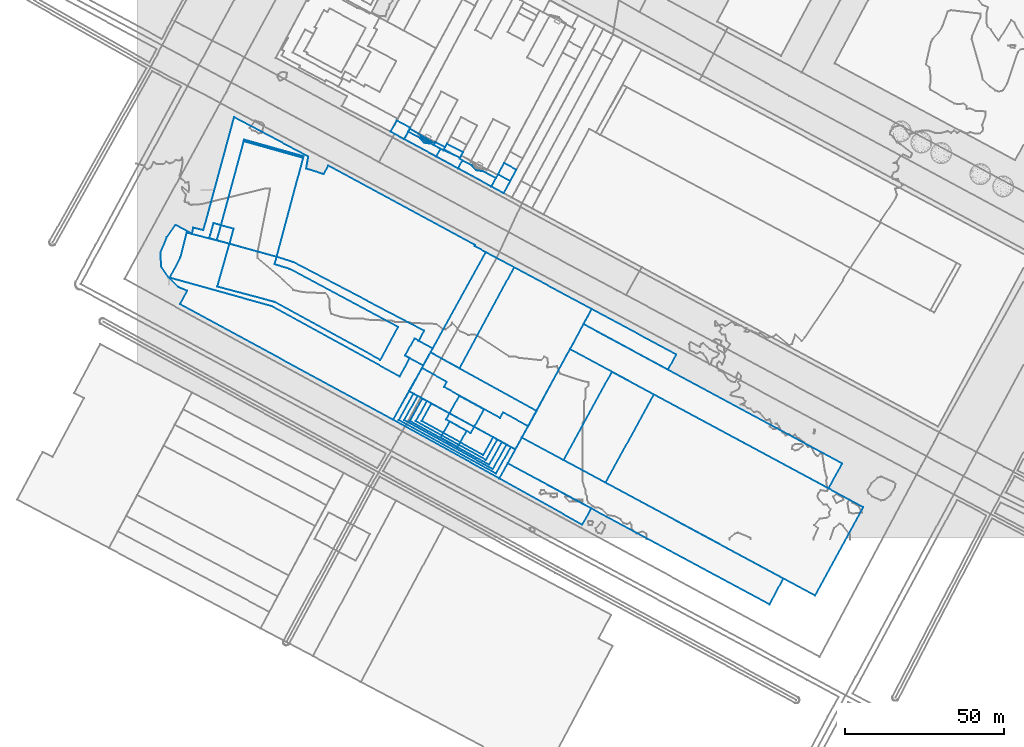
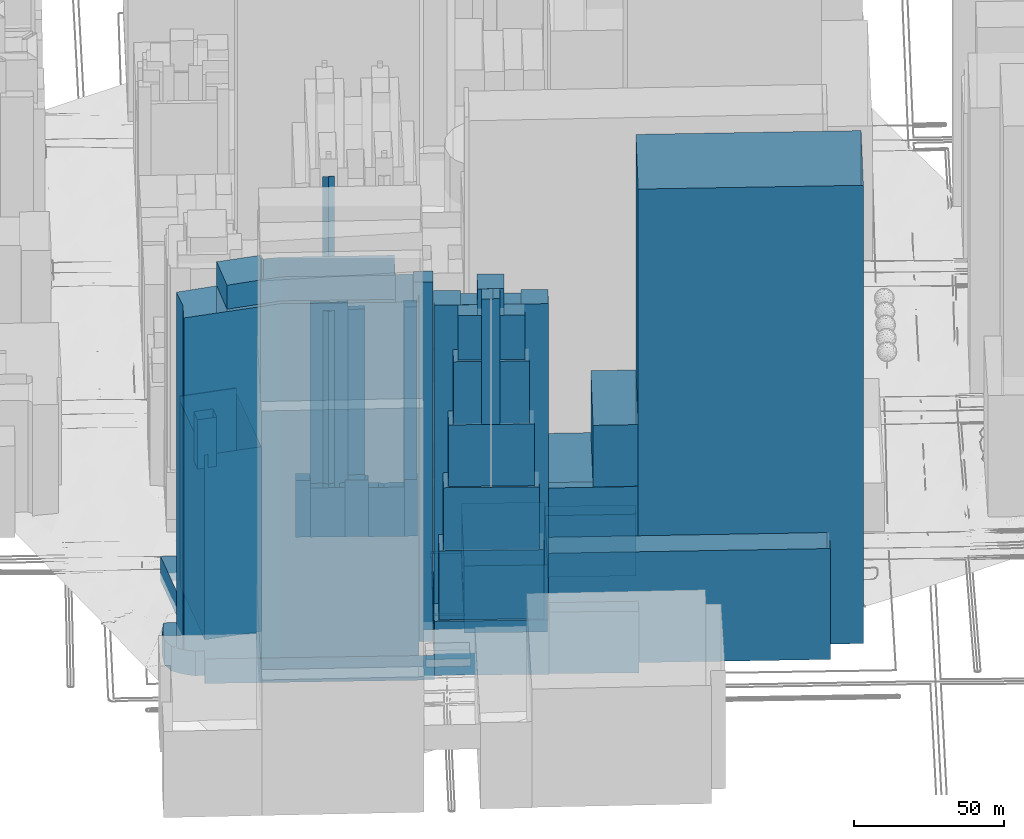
# Not in any storey, part 16 of 76: 37 walls.
"""IFC2X3 model written with IfcOpenShell, lengths in metres."""

from ifc_helpers import new_model, si_unit, frame, origin_with_axes, place, context, subcontext, project, faceted_brep, element, save


model = new_model("IFC2X3")

# Units and contexts
model_context = context("Model", 3, precision=1e-05, world=origin_with_axes())
body_context = subcontext(model_context, "Body", "Model", "MODEL_VIEW")
ifc_project = project(units=[si_unit("AREAUNIT", "SQUARE_METRE"), si_unit("LENGTHUNIT", "METRE")], contexts=[model_context])

# Walls
wall_1_placement = place(None, frame((114.0067788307, 18.7761491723, 19.812011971), z_axis=(0.0, 0.0, 1.0), x_axis=(1.0, 0.0, 0.0)))
element("IfcWall", 1, at=wall_1_placement, Name="Mur 0", context=body_context, shape_type="Brep", body=[
    faceted_brep([(26.1365112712, -14.6177862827, 25.0), (0.0, 0.0, 25.0), (26.1365112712, -14.6177862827, 0.0), (0.0, 0.0, 0.0), (28.9299641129, -9.4671911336, 25.0), (28.9299641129, -9.4671911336, 0.0), (2.6213710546, 4.7044961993, 25.0), (2.6213710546, 4.7044961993, 0.0)], [[[0, 1, 2]], [[2, 1, 3]], [[4, 0, 5]], [[5, 0, 2]], [[1, 6, 3]], [[3, 6, 7]], [[6, 4, 7]], [[7, 4, 5]]]),
])
wall_2_placement = place(None, frame((116.6281498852, 23.4806453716, 19.8729106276), z_axis=(0.0, 0.0, 1.0), x_axis=(1.0, 0.0, 0.0)))
element("IfcWall", 2, at=wall_2_placement, Name="Mur 0", context=body_context, shape_type="Brep", body=[
    faceted_brep([(82.4513940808, -44.4055894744, 45.0), (0.0, 0.0, 45.0), (82.4513940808, -44.4055894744, 0.0), (0.0, 0.0, 0.0), (86.7882297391, -36.2283155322, 45.0), (86.7882297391, -36.2283155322, 0.0), (4.4642793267, 8.112091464, 45.0), (4.4642793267, 8.112091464, 0.0)], [[[0, 1, 2]], [[2, 1, 3]], [[4, 0, 5]], [[5, 0, 2]], [[1, 6, 3]], [[3, 6, 7]], [[6, 4, 7]], [[7, 4, 5]]]),
])
wall_3_placement = place(None, frame((147.4689145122, 17.3885478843, 19.6016125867), z_axis=(0.0, 0.0, 1.0), x_axis=(1.0, 0.0, 0.0)))
element("IfcWall", 3, at=wall_3_placement, Name="Mur 0", context=body_context, shape_type="Brep", body=[
    faceted_brep([(65.9545168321, -35.5265708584, 186.0), (0.0, 0.0, 186.0), (65.9545168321, -35.5265708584, 0.0), (0.0, 0.0, 0.0), (81.1469833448, -7.7163751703, 186.0), (81.1469833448, -7.7163751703, 0.0), (15.1841917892, 27.8099611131, 186.0), (15.1841917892, 27.8099611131, 0.0)], [[[0, 1, 2]], [[2, 1, 3]], [[4, 0, 5]], [[5, 0, 2]], [[1, 6, 3]], [[3, 6, 7]], [[6, 4, 7]], [[7, 4, 5]]]),
])
wall_4_placement = place(None, frame((136.2766873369, 59.4026434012, 19.8866502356), z_axis=(0.0, 0.0, 1.0), x_axis=(1.0, 0.0, 0.0)))
element("IfcWall", 4, at=wall_4_placement, Name="Mur 0", context=body_context, shape_type="Brep", body=[
    faceted_brep([(81.3807730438, -43.8293972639, 45.0), (0.0, 0.0, 45.0), (81.3807730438, -43.8293972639, 0.0), (0.0, 0.0, 0.0), (85.6535269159, -35.9526169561, 45.0), (85.6535269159, -35.9526169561, 0.0), (4.2387920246, 7.8985421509, 45.0), (4.2387920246, 7.8985421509, 0.0)], [[[0, 1, 2]], [[2, 1, 3]], [[4, 0, 5]], [[5, 0, 2]], [[1, 6, 3]], [[3, 6, 7]], [[6, 4, 7]], [[7, 4, 5]]]),
])
wall_5_placement = place(None, frame((140.5154793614, 67.301185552, 20.1850862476), z_axis=(0.0, 0.0, 1.0), x_axis=(1.0, 0.0, 0.0)))
element("IfcWall", 5, at=wall_5_placement, Name="Mur 0", context=body_context, shape_type="Brep", body=[
    faceted_brep([(26.597401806, -14.3347775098, 25.0), (0.0, 0.0, 25.0), (26.597401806, -14.3347775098, 0.0), (0.0, 0.0, 0.0), (29.2006844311, -9.5305509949, 25.0), (29.2006844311, -9.5305509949, 0.0), (2.5614786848, 4.7704244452, 25.0), (2.5614786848, 4.7704244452, 0.0)], [[[0, 1, 2]], [[2, 1, 3]], [[4, 0, 5]], [[5, 0, 2]], [[1, 6, 3]], [[3, 6, 7]], [[6, 4, 7]], [[7, 4, 5]]]),
])
wall_6_placement = place(None, frame((121.0924292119, 31.5927368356, 19.8759564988), z_axis=(0.0, 0.0, 1.0), x_axis=(1.0, 0.0, 0.0)))
element("IfcWall", 6, at=wall_6_placement, Name="Mur 0", context=body_context, shape_type="Brep", body=[
    faceted_brep([(26.3764853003, -14.2041889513, 65.0), (0.0, 0.0, 65.0), (26.3764853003, -14.2041889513, 0.0), (0.0, 0.0, 0.0), (41.5606770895, 13.6057721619, 65.0), (41.5606770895, 13.6057721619, 0.0), (15.1842581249, 27.8099065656, 65.0), (15.1842581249, 27.8099065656, 0.0)], [[[0, 1, 2]], [[2, 1, 3]], [[4, 0, 5]], [[5, 0, 2]], [[1, 6, 3]], [[3, 6, 7]], [[6, 4, 7]], [[7, 4, 5]]]),
])
wall_7_placement = place(None, frame((134.2679337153, 24.4960340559, 85.0121369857), z_axis=(0.0, 0.0, 1.0), x_axis=(1.0, 0.0, 0.0)))
element("IfcWall", 7, at=wall_7_placement, Name="Mur 0", context=body_context, shape_type="Brep", body=[
    faceted_brep([(13.2009807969, -7.1074861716, 25.0), (0.0, 0.0, 25.0), (13.2009807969, -7.1074861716, 0.0), (0.0, 0.0, 0.0), (28.3851725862, 20.7024749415, 25.0), (28.3851725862, 20.7024749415, 0.0), (15.1842249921, 27.8099338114, 25.0), (15.1842249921, 27.8099338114, 0.0)], [[[0, 1, 2]], [[2, 1, 3]], [[4, 0, 5]], [[5, 0, 2]], [[1, 6, 3]], [[3, 6, 7]], [[6, 4, 7]], [[7, 4, 5]]]),
])
wall_8_placement = place(None, frame((80.6336597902, 37.2179875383, 19.5500389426), z_axis=(0.0, 0.0, 1.0), x_axis=(1.0, 0.0, 0.0)))
element("IfcWall", 8, at=wall_8_placement, Name="Mur 0", context=body_context, shape_type="Brep", body=[
    faceted_brep([(33.3731190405, -18.441838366, 6.0), (0.0, 0.0, 6.0), (33.3731190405, -18.441838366, 0.0), (0.0, 0.0, 0.0), (45.0971948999, 2.7553209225, 6.0), (45.0971948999, 2.7553209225, 0.0), (11.6985592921, 21.2190134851, 6.0), (11.6985592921, 21.2190134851, 0.0)], [[[0, 1, 2]], [[2, 1, 3]], [[4, 0, 5]], [[5, 0, 2]], [[1, 6, 3]], [[3, 6, 7]], [[6, 4, 7]], [[7, 4, 5]]]),
])
wall_9_placement = place(None, frame((97.2544970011, 37.2888688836, 19.612828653), z_axis=(0.0, 0.0, 1.0), x_axis=(1.0, 0.0, 0.0)))
element("IfcWall", 9, at=wall_9_placement, Name="Mur 0", context=body_context, shape_type="Brep", body=[
    faceted_brep([(7.7655788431, -4.295199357, 151.0), (0.0, 0.0, 151.0), (7.7655788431, -4.295199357, 0.0), (0.0, 0.0, 0.0), (11.9084198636, 3.14701657, 151.0), (11.9084198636, 3.14701657, 0.0), (4.1512866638, 7.4423095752, 151.0), (4.1512866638, 7.4423095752, 0.0)], [[[0, 1, 2]], [[2, 1, 3]], [[4, 0, 5]], [[5, 0, 2]], [[1, 6, 3]], [[3, 6, 7]], [[6, 4, 7]], [[7, 4, 5]]]),
])
wall_10_placement = place(None, frame((85.6283664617, 46.1799867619, 19.6882360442), z_axis=(0.0, 0.0, 1.0), x_axis=(1.0, 0.0, 0.0)))
element("IfcWall", 10, at=wall_10_placement, Name="Mur 0", context=body_context, shape_type="Brep", body=[
    faceted_brep([(33.4391985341, -18.3189230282, 143.0), (0.0, 0.0, 143.0), (33.4391985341, -18.3189230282, 0.0), (0.0, 0.0, 0.0), (37.4908592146, -11.0220874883, 143.0), (37.4908592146, -11.0220874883, 0.0), (29.5893203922, -6.650770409, 143.0), (29.5893203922, -6.650770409, 0.0), (28.6218928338, -8.3939587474, 143.0), (28.6218928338, -8.3939587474, 0.0), (10.9668168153, 1.3597031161, 143.0), (10.9668168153, 1.3597031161, 0.0), (11.8682699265, 2.9688959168, 143.0), (11.8682699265, 2.9688959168, 0.0), (4.0518112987, 7.2857163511, 143.0), (4.0518112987, 7.2857163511, 0.0)], [[[0, 1, 2]], [[2, 1, 3]], [[4, 0, 5]], [[5, 0, 2]], [[6, 4, 7]], [[7, 4, 5]], [[8, 6, 9]], [[9, 6, 7]], [[10, 8, 11]], [[11, 8, 9]], [[12, 10, 13]], [[13, 10, 11]], [[1, 14, 3]], [[3, 14, 15]], [[14, 12, 15]], [[15, 12, 13]]]),
])
wall_11_placement = place(None, frame((89.6801777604, 53.465703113, 19.6964299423), z_axis=(0.0, 0.0, 1.0), x_axis=(1.0, 0.0, 0.0)))
element("IfcWall", 11, at=wall_11_placement, Name="Mur 0", context=body_context, shape_type="Brep", body=[
    faceted_brep([(7.8164586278, -4.3168204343, 25.0), (0.0, 0.0, 25.0), (7.8164586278, -4.3168204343, 0.0), (0.0, 0.0, 0.0), (6.9150055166, -5.926013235, 25.0), (6.9150055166, -5.926013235, 0.0), (24.5700815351, -15.6796750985, 25.0), (24.5700815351, -15.6796750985, 0.0), (25.5375090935, -13.9364867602, 25.0), (25.5375090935, -13.9364867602, 0.0), (33.4390479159, -18.3078038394, 25.0), (33.4390479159, -18.3078038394, 0.0), (36.0506769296, -13.4923946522, 25.0), (36.0506769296, -13.4923946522, 0.0), (2.6520413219, 4.9712979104, 25.0), (2.6520413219, 4.9712979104, 0.0)], [[[0, 1, 2]], [[2, 1, 3]], [[4, 0, 5]], [[5, 0, 2]], [[6, 4, 7]], [[7, 4, 5]], [[8, 6, 9]], [[9, 6, 7]], [[10, 8, 11]], [[11, 8, 9]], [[12, 10, 13]], [[13, 10, 11]], [[1, 14, 3]], [[3, 14, 15]], [[14, 12, 15]], [[15, 12, 13]]]),
])
wall_12_placement = place(None, frame((101.457152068, 53.3915293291, 19.7455046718), z_axis=(0.0, 0.0, 1.0), x_axis=(1.0, 0.0, 0.0)))
element("IfcWall", 12, at=wall_12_placement, Name="Mur 0", context=body_context, shape_type="Brep", body=[
    faceted_brep([(24.273702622, -13.4182208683, 27.2000007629), (0.0, 0.0, 27.2000007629), (24.273702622, -13.4182208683, 0.0), (0.0, 0.0, 0.0), (41.6198059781, 18.6800806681, 27.2000007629), (41.6198059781, 18.6800806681, 0.0), (17.2230477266, 31.7970531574, 27.2000007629), (17.2230477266, 31.7970531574, 0.0)], [[[0, 1, 2]], [[2, 1, 3]], [[4, 0, 5]], [[5, 0, 2]], [[1, 6, 3]], [[3, 6, 7]], [[6, 4, 7]], [[7, 4, 5]]]),
])
wall_13_placement = place(None, frame((92.3322190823, 58.4370010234, 26.7455046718), z_axis=(0.0, 0.0, 1.0), x_axis=(1.0, 0.0, 0.0)))
element("IfcWall", 13, at=wall_13_placement, Name="Mur 0", context=body_context, shape_type="Brep", body=[
    faceted_brep([(9.1249329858, -5.0454716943, 1.0), (0.0, 0.0, 1.0), (9.1249329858, -5.0454716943, 0.0), (0.0, 0.0, 0.0), (26.3479807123, 26.751581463, 1.0), (26.3479807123, 26.751581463, 0.0), (17.4371802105, 31.5330646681, 1.0), (17.4371802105, 31.5330646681, 0.0)], [[[0, 1, 2]], [[2, 1, 3]], [[4, 0, 5]], [[5, 0, 2]], [[1, 6, 3]], [[3, 6, 7]], [[6, 4, 7]], [[7, 4, 5]]]),
])
wall_14_placement = place(None, frame((111.5045105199, 110.6515077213, 20.6975796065), z_axis=(0.0, 0.0, 1.0), x_axis=(1.0, 0.0, 0.0)))
element("IfcWall", 14, at=wall_14_placement, Name="Mur 0", context=body_context, shape_type="Brep", body=[
    faceted_brep([(3.9161944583, -2.1194488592, 23.0), (0.0, 0.0, 23.0), (3.9161944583, -2.1194488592, 0.0), (0.0, 0.0, 0.0), (5.9481877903, 1.7233296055, 23.0), (5.9481877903, 1.7233296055, 0.0), (2.0830242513, 3.8100633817, 23.0), (2.0830242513, 3.8100633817, 0.0)], [[[0, 1, 2]], [[2, 1, 3]], [[4, 0, 5]], [[5, 0, 2]], [[1, 6, 3]], [[3, 6, 7]], [[6, 4, 7]], [[7, 4, 5]]]),
])
wall_15_placement = place(None, frame((101.0554515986, 116.3255174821, 20.7066671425), z_axis=(0.0, 0.0, 1.0), x_axis=(1.0, 0.0, 0.0)))
element("IfcWall", 15, at=wall_15_placement, Name="Mur 0", context=body_context, shape_type="Brep", body=[
    faceted_brep([(10.4490589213, -5.6740097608, 20.0), (0.0, 0.0, 20.0), (10.4490589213, -5.6740097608, 0.0), (0.0, 0.0, 0.0), (11.8959655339, -3.0592762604, 20.0), (11.8959655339, -3.0592762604, 0.0), (7.7933107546, -0.875378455, 20.0), (7.7933107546, -0.875378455, 0.0), (5.7130921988, -0.5664729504, 20.0), (5.7130921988, -0.5664729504, 0.0), (4.3532680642, 0.949843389, 20.0), (4.3532680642, 0.949843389, 0.0), (1.3463972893, 2.5469505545, 20.0), (1.3463972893, 2.5469505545, 0.0)], [[[0, 1, 2]], [[2, 1, 3]], [[4, 0, 5]], [[5, 0, 2]], [[6, 4, 7]], [[7, 4, 5]], [[8, 6, 9]], [[9, 6, 7]], [[10, 8, 11]], [[11, 8, 9]], [[1, 12, 3]], [[3, 12, 13]], [[12, 10, 13]], [[13, 10, 11]]]),
])
wall_16_placement = place(None, frame((113.5875347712, 114.461571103, 20.7566379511), z_axis=(0.0, 0.0, 1.0), x_axis=(1.0, 0.0, 0.0)))
element("IfcWall", 16, at=wall_16_placement, Name="Mur 0", context=body_context, shape_type="Brep", body=[
    faceted_brep([(3.8651635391, -2.0867337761, 90.0), (0.0, 0.0, 90.0), (3.8651635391, -2.0867337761, 0.0), (0.0, 0.0, 0.0), (5.7992221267, 1.4662491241, 90.0), (5.7992221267, 1.4662491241, 0.0), (1.9000401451, 3.5747912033, 90.0), (1.9000401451, 3.5747912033, 0.0)], [[[0, 1, 2]], [[2, 1, 3]], [[4, 0, 5]], [[5, 0, 2]], [[1, 6, 3]], [[3, 6, 7]], [[6, 4, 7]], [[7, 4, 5]]]),
])
wall_17_placement = place(None, frame((89.3637116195, 126.5148286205, 113.9436356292), z_axis=(0.0, 0.0, 1.0), x_axis=(1.0, 0.0, 0.0)))
element("IfcWall", 17, at=wall_17_placement, Name="Mur 0", context=body_context, shape_type="Brep", body=[
    faceted_brep([(1.4178709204, -1.4268270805, 51.0), (0.0, 0.0, 51.0), (1.4178709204, -1.4268270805, 0.0), (0.0, 0.0, 0.0), (3.4315938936, -1.825327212, 51.0), (3.4315938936, -1.825327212, 0.0), (0.9512587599, -0.4996567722, 51.0), (0.9512587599, -0.4996567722, 0.0)], [[[0, 1, 2]], [[2, 1, 3]], [[4, 0, 5]], [[5, 0, 2]], [[1, 6, 3]], [[3, 6, 7]], [[6, 4, 7]], [[7, 4, 5]]]),
])
wall_18_placement = place(None, frame((89.049807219, 125.9227641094, 40.9291720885), z_axis=(0.0, 0.0, 1.0), x_axis=(1.0, 0.0, 0.0)))
element("IfcWall", 18, at=wall_18_placement, Name="Mur 0", context=body_context, shape_type="Brep", body=[
    faceted_brep([(1.3513787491, -1.5164173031, 70.0), (0.0, 0.0, 70.0), (1.3513787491, -1.5164173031, 0.0), (0.0, 0.0, 0.0), (3.4399056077, -1.8141285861, 70.0), (3.4399056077, -1.8141285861, 0.0)], [[[0, 1, 2]], [[2, 1, 3]], [[1, 4, 3]], [[3, 4, 5]], [[4, 0, 5]], [[5, 0, 2]]]),
])
wall_19_placement = place(None, frame((85.346445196, 127.8892664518, 20.9224524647), z_axis=(0.0, 0.0, 1.0), x_axis=(1.0, 0.0, 0.0)))
element("IfcWall", 19, at=wall_19_placement, Name="Mur 0", context=body_context, shape_type="Brep", body=[
    faceted_brep([(11.0759435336, -5.8665913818, 93.0), (0.0, 0.0, 93.0), (11.0759435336, -5.8665913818, 0.0), (0.0, 0.0, 0.0), (11.6132272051, -4.8833535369, 93.0), (11.6132272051, -4.8833535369, 0.0), (8.5131290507, -3.254018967, 93.0), (8.5131290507, -3.254018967, 0.0), (8.2981897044, -3.6450938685, 93.0), (8.2981897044, -3.6450938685, 0.0), (7.4488603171, -3.1997650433, 93.0), (7.4488603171, -3.1997650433, 0.0), (0.5122211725, 0.9607414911, 93.0), (0.5122211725, 0.9607414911, 0.0)], [[[0, 1, 2]], [[2, 1, 3]], [[4, 0, 5]], [[5, 0, 2]], [[6, 4, 7]], [[7, 4, 5]], [[8, 6, 9]], [[9, 6, 7]], [[10, 8, 11]], [[11, 8, 9]], [[1, 12, 3]], [[3, 12, 13]], [[12, 10, 13]], [[13, 10, 11]]]),
])
wall_20_placement = place(None, frame((79.7834254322, 127.8912834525, 20.9495116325), z_axis=(0.0, 0.0, 1.0), x_axis=(1.0, 0.0, 0.0)))
element("IfcWall", 20, at=wall_20_placement, Name="Mur 0", context=body_context, shape_type="Brep", body=[
    faceted_brep([(4.3157123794, -2.3590755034, 23.0), (0.0, 0.0, 23.0), (4.3157123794, -2.3590755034, 0.0), (0.0, 0.0, 0.0), (6.2321287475, 1.260307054, 23.0), (6.2321287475, 1.260307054, 0.0), (1.9932839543, 3.5425582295, 23.0), (1.9932839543, 3.5425582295, 0.0)], [[[0, 1, 2]], [[2, 1, 3]], [[4, 0, 5]], [[5, 0, 2]], [[1, 6, 3]], [[3, 6, 7]], [[6, 4, 7]], [[7, 4, 5]]]),
])
wall_21_placement = place(None, frame((22.7189740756, 94.3773567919, 88.9019969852), z_axis=(0.0, 0.0, 1.0), x_axis=(1.0, 0.0, 0.0)))
element("IfcWall", 21, at=wall_21_placement, Name="Mur 0", context=body_context, shape_type="Brep", body=[
    faceted_brep([(6.3601779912, -1.7691695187, 20.0), (0.0, 0.0, 20.0), (6.3601779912, -1.7691695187, 0.0), (0.0, 0.0, 0.0), (7.681097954, 2.9757163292, 20.0), (7.681097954, 2.9757163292, 0.0), (1.3210524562, 4.7337839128, 20.0), (1.3210524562, 4.7337839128, 0.0)], [[[0, 1, 2]], [[2, 1, 3]], [[4, 0, 5]], [[5, 0, 2]], [[1, 6, 3]], [[3, 6, 7]], [[6, 4, 7]], [[7, 4, 5]]]),
])
wall_22_placement = place(None, frame((25.0902924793, 93.7165336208, 19.1898978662), z_axis=(0.0, 0.0, 1.0), x_axis=(1.0, 0.0, 0.0)))
element("IfcWall", 22, at=wall_22_placement, Name="Mur 0", context=body_context, shape_type="Brep", body=[
    faceted_brep([(18.8092921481, -5.2107143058, 75.0), (0.0, 0.0, 75.0), (18.8092921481, -5.2107143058, 0.0), (0.0, 0.0, 0.0), (27.1849139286, 25.928386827, 75.0), (27.1849139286, 25.928386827, 0.0), (8.4934731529, 31.1737525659, 75.0), (8.4934731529, 31.1737525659, 0.0)], [[[0, 1, 2]], [[2, 1, 3]], [[4, 0, 5]], [[5, 0, 2]], [[1, 6, 3]], [[3, 6, 7]], [[6, 4, 7]], [[7, 4, 5]]]),
])
wall_23_placement = place(None, frame((33.5837656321, 124.8902861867, 21.1228938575), z_axis=(0.0, 0.0, 1.0), x_axis=(1.0, 0.0, 0.0)))
element("IfcWall", 23, at=wall_23_placement, Name="Mur 0", context=body_context, shape_type="Brep", body=[
    faceted_brep([(18.6914407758, -5.2453657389, 75.0), (0.0, 0.0, 75.0), (18.6914407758, -5.2453657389, 0.0), (0.0, 0.0, 0.0), (18.8375703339, -4.7440683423, 75.0), (18.8375703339, -4.7440683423, 0.0), (0.1460018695, 0.512397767, 75.0), (0.1460018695, 0.512397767, 0.0)], [[[0, 1, 2]], [[2, 1, 3]], [[4, 0, 5]], [[5, 0, 2]], [[1, 6, 3]], [[3, 6, 7]], [[6, 4, 7]], [[7, 4, 5]]]),
])
wall_24_placement = place(None, frame((84.0991378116, 125.5322079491, 20.8772412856), z_axis=(0.0, 0.0, 1.0), x_axis=(1.0, 0.0, 0.0)))
element("IfcWall", 24, at=wall_24_placement, Name="Mur 0", context=body_context, shape_type="Brep", body=[
    faceted_brep([(10.0753325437, -5.4785327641, 20.0), (0.0, 0.0, 20.0), (10.0753325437, -5.4785327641, 0.0), (0.0, 0.0, 0.0), (11.4144512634, -3.0315882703, 20.0), (11.4144512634, -3.0315882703, 0.0), (8.3905750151, -1.4235724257, 20.0), (8.3905750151, -1.4235724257, 0.0), (6.3020481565, -1.1258611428, 20.0), (6.3020481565, -1.1258611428, 0.0), (4.9506694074, 0.3905561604, 20.0), (4.9506694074, 0.3905561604, 0.0), (1.2473073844, 2.3570585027, 20.0), (1.2473073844, 2.3570585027, 0.0)], [[[0, 1, 2]], [[2, 1, 3]], [[4, 0, 5]], [[5, 0, 2]], [[6, 4, 7]], [[7, 4, 5]], [[8, 6, 9]], [[9, 6, 7]], [[10, 8, 11]], [[11, 8, 9]], [[1, 12, 3]], [[3, 12, 13]], [[12, 10, 13]], [[13, 10, 11]]]),
])
wall_25_placement = place(None, frame((96.571222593, 122.290857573, 20.9256419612), z_axis=(0.0, 0.0, 1.0), x_axis=(1.0, 0.0, 0.0)))
element("IfcWall", 25, at=wall_25_placement, Name="Mur 0", context=body_context, shape_type="Brep", body=[
    faceted_brep([(5.0532629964, -2.6280560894, 90.0), (0.0, 0.0, 90.0), (5.0532629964, -2.6280560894, 0.0), (0.0, 0.0, 0.0), (5.9949739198, -0.8518608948, 90.0), (5.9949739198, -0.8518608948, 0.0), (0.9583347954, 1.7985921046, 90.0), (0.9583347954, 1.7985921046, 0.0)], [[[0, 1, 2]], [[2, 1, 3]], [[4, 0, 5]], [[5, 0, 2]], [[1, 6, 3]], [[3, 6, 7]], [[6, 4, 7]], [[7, 4, 5]]]),
])
wall_26_placement = place(None, frame((94.1744703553, 120.053675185, 20.8772412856), z_axis=(0.0, 0.0, 1.0), x_axis=(1.0, 0.0, 0.0)))
element("IfcWall", 26, at=wall_26_placement, Name="Mur 0", context=body_context, shape_type="Brep", body=[
    faceted_brep([(6.8809812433, -3.7281577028, 23.0), (0.0, 0.0, 23.0), (6.8809812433, -3.7281577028, 0.0), (0.0, 0.0, 0.0), (8.2273785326, -1.1812071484, 23.0), (8.2273785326, -1.1812071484, 0.0), (7.2929989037, -0.6813558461, 23.0), (7.2929989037, -0.6813558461, 0.0), (7.4500152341, -0.3908737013, 23.0), (7.4500152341, -0.3908737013, 0.0), (1.3391187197, 2.4469444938, 23.0), (1.3391187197, 2.4469444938, 0.0)], [[[0, 1, 2]], [[2, 1, 3]], [[4, 0, 5]], [[5, 0, 2]], [[6, 4, 7]], [[7, 4, 5]], [[8, 6, 9]], [[9, 6, 7]], [[1, 10, 3]], [[3, 10, 11]], [[10, 8, 11]], [[11, 8, 9]]]),
])
wall_27_placement = place(None, frame((7.3491025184, 89.8136402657, 17.7214611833), z_axis=(0.0, 0.0, 1.0), x_axis=(1.0, 0.0, 0.0)))
element("IfcWall", 27, at=wall_27_placement, Name="Mur 0", context=body_context, shape_type="Brep", body=[
    faceted_brep([(0.2453875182, -4.415847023, 10.0), (0.0, 0.0, 10.0), (0.2453875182, -4.415847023, 0.0), (0.0, 0.0, 0.0), (2.6154001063, -7.8744561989, 10.0), (2.6154001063, -7.8744561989, 0.0), (5.7231550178, -10.8915176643, 10.0), (5.7231550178, -10.8915176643, 0.0), (8.4542586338, -12.0033616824, 10.0), (8.4542586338, -12.0033616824, 0.0), (6.1566151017, -16.2377711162, 10.0), (6.1566151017, -16.2377711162, 0.0), (73.2845572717, -52.5956527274, 10.0), (73.2845572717, -52.5956527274, 0.0), (102.4202967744, 0.1564254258, 10.0), (102.4202967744, 0.1564254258, 0.0), (98.8779250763, 2.0692765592, 10.0), (98.8779250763, 2.0692765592, 0.0), (99.0514359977, 2.3932571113, 10.0), (99.0514359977, 2.3932571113, 0.0), (52.8636652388, 27.4365171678, 10.0), (52.8636652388, 27.4365171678, 0.0), (51.4007622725, 24.7438929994, 10.0), (51.4007622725, 24.7438929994, 0.0), (45.8767148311, 26.4783333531, 10.0), (45.8767148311, 26.4783333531, 0.0), (46.5332031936, 30.282922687, 10.0), (46.5332031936, 30.282922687, 0.0), (23.1839558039, 42.6351800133, 10.0), (23.1839558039, 42.6351800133, 0.0), (13.5007386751, 7.051135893, 10.0), (13.5007386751, 7.051135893, 0.0), (10.3255164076, 7.8802686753, 10.0), (10.3255164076, 7.8802686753, 0.0), (9.9255178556, 5.9771433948, 10.0), (9.9255178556, 5.9771433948, 0.0), (4.7352910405, 8.7702011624, 10.0), (4.7352910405, 8.7702011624, 0.0), (2.0193040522, 4.9417221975, 10.0), (2.0193040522, 4.9417221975, 0.0)], [[[0, 1, 2]], [[2, 1, 3]], [[4, 0, 5]], [[5, 0, 2]], [[6, 4, 7]], [[7, 4, 5]], [[8, 6, 9]], [[9, 6, 7]], [[10, 8, 11]], [[11, 8, 9]], [[12, 10, 13]], [[13, 10, 11]], [[14, 12, 15]], [[15, 12, 13]], [[16, 14, 17]], [[17, 14, 15]], [[18, 16, 19]], [[19, 16, 17]], [[20, 18, 21]], [[21, 18, 19]], [[22, 20, 23]], [[23, 20, 21]], [[24, 22, 25]], [[25, 22, 23]], [[26, 24, 27]], [[27, 24, 25]], [[28, 26, 29]], [[29, 26, 27]], [[30, 28, 31]], [[31, 28, 29]], [[32, 30, 33]], [[33, 30, 31]], [[34, 32, 35]], [[35, 32, 33]], [[36, 34, 37]], [[37, 34, 35]], [[1, 38, 3]], [[3, 38, 39]], [[38, 36, 39]], [[39, 36, 37]]]),
])
wall_28_placement = place(None, frame((25.2509816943, 79.141148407, 19.2330182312), z_axis=(0.0, 0.0, 1.0), x_axis=(1.0, 0.0, 0.0)))
element("IfcWall", 28, at=wall_28_placement, Name="Mur 0", context=body_context, shape_type="Brep", body=[
    faceted_brep([(18.0873774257, -4.830514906, 152.6999969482), (0.0, 0.0, 152.6999969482), (18.0873774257, -4.830514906, 0.0), (0.0, 0.0, 0.0), (51.3228673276, -23.0742728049, 152.6999969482), (51.3228673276, -23.0742728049, 0.0), (56.8754076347, -12.7180175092, 152.6999969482), (56.8754076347, -12.7180175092, 0.0), (22.7612366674, 5.593231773, 152.6999969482), (22.7612366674, 5.593231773, 0.0), (18.0174305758, 7.0147710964, 152.6999969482), (18.0174305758, 7.0147710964, 0.0), (18.648602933, 9.3646709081, 152.6999969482), (18.648602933, 9.3646709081, 0.0), (3.8281703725, 13.4670388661, 152.6999969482), (3.8281703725, 13.4670388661, 0.0)], [[[0, 1, 2]], [[2, 1, 3]], [[4, 0, 5]], [[5, 0, 2]], [[6, 4, 7]], [[7, 4, 5]], [[8, 6, 9]], [[9, 6, 7]], [[10, 8, 11]], [[11, 8, 9]], [[12, 10, 13]], [[13, 10, 11]], [[1, 14, 3]], [[3, 14, 15]], [[14, 12, 15]], [[15, 12, 13]]]),
])
wall_29_placement = place(None, frame((84.3328700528, 57.422623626, 19.717099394), z_axis=(0.0, 0.0, 1.0), x_axis=(1.0, 0.0, 0.0)))
element("IfcWall", 29, at=wall_29_placement, Name="Mur 0", context=body_context, shape_type="Brep", body=[
    faceted_brep([(5.7007108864, -3.131250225, 146.0), (0.0, 0.0, 146.0), (5.7007108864, -3.131250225, 0.0), (0.0, 0.0, 0.0), (8.685731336, 2.2435956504, 146.0), (8.685731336, 2.2435956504, 0.0), (2.9850231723, 5.3748435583, 146.0), (2.9850231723, 5.3748435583, 0.0)], [[[0, 1, 2]], [[2, 1, 3]], [[4, 0, 5]], [[5, 0, 2]], [[1, 6, 3]], [[3, 6, 7]], [[6, 4, 7]], [[7, 4, 5]]]),
])
wall_30_placement = place(None, frame((89.5609801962, 36.8331506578, 19.6677865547), z_axis=(0.0, 0.0, 1.0), x_axis=(1.0, 0.0, 0.0)))
element("IfcWall", 30, at=wall_30_placement, Name="Mur 0", context=body_context, shape_type="Brep", body=[
    faceted_brep([(19.4138892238, -10.7324529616, 143.0), (0.0, 0.0, 143.0), (19.4138892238, -10.7324529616, 0.0), (0.0, 0.0, 0.0), (22.5396898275, -5.1228171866, 143.0), (22.5396898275, -5.1228171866, 0.0), (3.0597039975, 5.4867351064, 143.0), (3.0597039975, 5.4867351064, 0.0)], [[[0, 1, 2]], [[2, 1, 3]], [[4, 0, 5]], [[5, 0, 2]], [[1, 6, 3]], [[3, 6, 7]], [[6, 4, 7]], [[7, 4, 5]]]),
])
wall_31_placement = place(None, frame((87.7213295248, 36.7784814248, 19.6583385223), z_axis=(0.0, 0.0, 1.0), x_axis=(1.0, 0.0, 0.0)))
element("IfcWall", 31, at=wall_31_placement, Name="Mur 0", context=body_context, shape_type="Brep", body=[
    faceted_brep([(22.0733143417, -12.2114746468, 125.0), (0.0, 0.0, 125.0), (22.0733143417, -12.2114746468, 0.0), (0.0, 0.0, 0.0), (25.6622439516, -5.774892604, 125.0), (25.6622439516, -5.774892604, 0.0), (24.3793404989, -5.0681479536, 125.0), (24.3793404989, -5.0681479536, 0.0), (21.2535398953, -10.6777837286, 125.0), (21.2535398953, -10.6777837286, 0.0), (1.8396506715, 0.054669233, 125.0), (1.8396506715, 0.054669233, 0.0), (4.8993546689, 5.5414043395, 125.0), (4.8993546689, 5.5414043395, 0.0), (3.514524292, 6.3024800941, 125.0), (3.514524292, 6.3024800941, 0.0)], [[[0, 1, 2]], [[2, 1, 3]], [[4, 0, 5]], [[5, 0, 2]], [[6, 4, 7]], [[7, 4, 5]], [[8, 6, 9]], [[9, 6, 7]], [[10, 8, 11]], [[11, 8, 9]], [[12, 10, 13]], [[13, 10, 11]], [[1, 14, 3]], [[3, 14, 15]], [[14, 12, 15]], [[15, 12, 13]]]),
])
wall_32_placement = place(None, frame((85.863250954, 36.8568256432, 19.6310872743), z_axis=(0.0, 0.0, 1.0), x_axis=(1.0, 0.0, 0.0)))
element("IfcWall", 32, at=wall_32_placement, Name="Mur 0", context=body_context, shape_type="Brep", body=[
    faceted_brep([(24.9704931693, -13.8098599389, 100.0), (0.0, 0.0, 100.0), (24.9704931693, -13.8098599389, 0.0), (0.0, 0.0, 0.0), (28.9646281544, -6.6469244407, 100.0), (28.9646281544, -6.6469244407, 0.0), (27.5203225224, -5.8532368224, 100.0), (27.5203225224, -5.8532368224, 0.0), (23.9313929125, -12.2898188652, 100.0), (23.9313929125, -12.2898188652, 0.0), (1.8580785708, -0.0783442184, 100.0), (1.8580785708, -0.0783442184, 0.0), (5.3726028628, 6.2241358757, 100.0), (5.3726028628, 6.2241358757, 0.0), (3.9197328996, 7.0288307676, 100.0), (3.9197328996, 7.0288307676, 0.0)], [[[0, 1, 2]], [[2, 1, 3]], [[4, 0, 5]], [[5, 0, 2]], [[6, 4, 7]], [[7, 4, 5]], [[8, 6, 9]], [[9, 6, 7]], [[10, 8, 11]], [[11, 8, 9]], [[12, 10, 13]], [[13, 10, 11]], [[1, 14, 3]], [[3, 14, 15]], [[14, 12, 15]], [[15, 12, 13]]]),
])
wall_33_placement = place(None, frame((80.6336597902, 37.2179875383, 19.5500389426), z_axis=(0.0, 0.0, 1.0), x_axis=(1.0, 0.0, 0.0)))
element("IfcWall", 33, at=wall_33_placement, Name="Mur 0", context=body_context, shape_type="Brep", body=[
    faceted_brep([(33.3731190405, -18.441838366, 22.0), (0.0, 0.0, 22.0), (33.3731190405, -18.441838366, 0.0), (0.0, 0.0, 0.0), (38.4339052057, -9.3569238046, 22.0), (38.4339052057, -9.3569238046, 0.0), (37.006479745, -8.5630409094, 22.0), (37.006479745, -8.5630409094, 0.0), (32.3260927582, -16.9662987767, 22.0), (32.3260927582, -16.9662987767, 0.0), (1.7566630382, -0.0684208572, 22.0), (1.7566630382, -0.0684208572, 0.0), (6.3625259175, 8.2118271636, 22.0), (6.3625259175, 8.2118271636, 0.0), (4.9947066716, 8.9619992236, 22.0), (4.9947066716, 8.9619992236, 0.0)], [[[0, 1, 2]], [[2, 1, 3]], [[4, 0, 5]], [[5, 0, 2]], [[6, 4, 7]], [[7, 4, 5]], [[8, 6, 9]], [[9, 6, 7]], [[10, 8, 11]], [[11, 8, 9]], [[12, 10, 13]], [[13, 10, 11]], [[1, 14, 3]], [[3, 14, 15]], [[14, 12, 15]], [[15, 12, 13]]]),
])
wall_34_placement = place(None, frame((95.5478595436, 31.5958001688, 119.6064738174), z_axis=(0.0, 0.0, 1.0), x_axis=(1.0, 0.0, 0.0)))
element("IfcWall", 34, at=wall_34_placement, Name="Mur 0", context=body_context, shape_type="Brep", body=[
    faceted_brep([(5.335986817, -2.9800465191, 51.0), (0.0, 0.0, 51.0), (5.335986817, -2.9800465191, 0.0), (0.0, 0.0, 0.0), (8.1807445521, 2.1156181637, 51.0), (8.1807445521, 2.1156181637, 0.0), (2.8367063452, 5.0622623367, 51.0), (2.8367063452, 5.0622623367, 0.0)], [[[0, 1, 2]], [[2, 1, 3]], [[4, 0, 5]], [[5, 0, 2]], [[1, 6, 3]], [[3, 6, 7]], [[6, 4, 7]], [[7, 4, 5]]]),
])
wall_35_placement = place(None, frame((84.0707632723, 37.1024656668, 19.6050347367), z_axis=(0.0, 0.0, 1.0), x_axis=(1.0, 0.0, 0.0)))
element("IfcWall", 35, at=wall_35_placement, Name="Mur 0", context=body_context, shape_type="Brep", body=[
    faceted_brep([(27.9101325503, -15.4299566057, 75.0), (0.0, 0.0, 75.0), (27.9101325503, -15.4299566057, 0.0), (0.0, 0.0, 0.0), (32.2099912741, -7.6972545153, 75.0), (32.2099912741, -7.6972545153, 0.0), (30.757115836, -6.8925644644, 75.0), (30.757115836, -6.8925644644, 0.0), (26.7629808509, -14.0554999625, 75.0), (26.7629808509, -14.0554999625, 0.0), (1.7924876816, -0.2456400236, 75.0), (1.7924876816, -0.2456400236, 0.0), (5.7122205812, 6.783190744, 75.0), (5.7122205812, 6.783190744, 0.0), (4.233900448, 7.5986926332, 75.0), (4.233900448, 7.5986926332, 0.0)], [[[0, 1, 2]], [[2, 1, 3]], [[4, 0, 5]], [[5, 0, 2]], [[6, 4, 7]], [[7, 4, 5]], [[8, 6, 9]], [[9, 6, 7]], [[10, 8, 11]], [[11, 8, 9]], [[12, 10, 13]], [[13, 10, 11]], [[1, 14, 3]], [[3, 14, 15]], [[14, 12, 15]], [[15, 12, 13]]]),
])
wall_36_placement = place(None, frame((82.3903228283, 37.1495666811, 19.5783829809), z_axis=(0.0, 0.0, 1.0), x_axis=(1.0, 0.0, 0.0)))
element("IfcWall", 36, at=wall_36_placement, Name="Mur 0", context=body_context, shape_type="Brep", body=[
    faceted_brep([(30.5694297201, -16.8978779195, 50.0), (0.0, 0.0, 50.0), (30.5694297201, -16.8978779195, 0.0), (0.0, 0.0, 0.0), (35.2498167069, -8.4946200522, 50.0), (35.2498167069, -8.4946200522, 0.0), (33.8904317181, -7.7443555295, 50.0), (33.8904317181, -7.7443555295, 0.0), (29.5905729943, -15.47705762, 50.0), (29.5905729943, -15.47705762, 0.0), (1.680440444, -0.0471010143, 50.0), (1.680440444, -0.0471010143, 0.0), (5.914340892, 7.5515916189, 50.0), (5.914340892, 7.5515916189, 0.0), (4.6058628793, 8.2802480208, 50.0), (4.6058628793, 8.2802480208, 0.0)], [[[0, 1, 2]], [[2, 1, 3]], [[4, 0, 5]], [[5, 0, 2]], [[6, 4, 7]], [[7, 4, 5]], [[8, 6, 9]], [[9, 6, 7]], [[10, 8, 11]], [[11, 8, 9]], [[12, 10, 13]], [[13, 10, 11]], [[1, 14, 3]], [[3, 14, 15]], [[14, 12, 15]], [[15, 12, 13]]]),
])
wall_37_placement = place(None, frame((10.2935527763, 81.9541038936, 18.1747184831), z_axis=(0.0, 0.0, 1.0), x_axis=(1.0, 0.0, 0.0)))
element("IfcWall", 37, at=wall_37_placement, Name="Mur 0", context=body_context, shape_type="Brep", body=[
    faceted_brep([(32.0809116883, -8.9647227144, 144.0), (0.0, 0.0, 144.0), (32.0809116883, -8.9647227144, 0.0), (0.0, 0.0, 0.0), (72.4107688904, -31.1340236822, 144.0), (72.4107688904, -31.1340236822, 0.0), (75.4666046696, -25.3142687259, 144.0), (75.4666046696, -25.3142687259, 0.0), (74.0393172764, -24.5314802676, 144.0), (74.0393172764, -24.5314802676, 0.0), (77.0243404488, -19.1566367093, 144.0), (77.0243404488, -19.1566367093, 0.0), (78.3921568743, -19.9068084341, 144.0), (78.3921568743, -19.9068084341, 0.0), (80.0687125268, -16.7120963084, 144.0), (80.0687125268, -16.7120963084, 0.0), (38.8417037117, 4.9360451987, 144.0), (38.8417037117, 4.9360451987, 0.0), (33.606031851, 6.5517154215, 144.0), (33.606031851, 6.5517154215, 0.0), (32.9748594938, 4.2018156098, 144.0), (32.9748594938, 4.2018156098, 0.0), (37.7186655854, 2.7802762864, 144.0), (37.7186655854, 2.7802762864, 0.0), (71.8328365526, -15.5309729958, 144.0), (71.8328365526, -15.5309729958, 0.0), (66.2802962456, -25.8872282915, 144.0), (66.2802962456, -25.8872282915, 0.0), (33.0448063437, -7.6434703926, 144.0), (33.0448063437, -7.6434703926, 0.0), (14.957428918, -2.8129554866, 144.0), (14.957428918, -2.8129554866, 0.0), (18.7855992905, 10.6540833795, 144.0), (18.7855992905, 10.6540833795, 0.0), (5.3227427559, 14.1616083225, 144.0), (5.3227427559, 14.1616083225, 0.0), (3.3283605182, 6.3446916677, 144.0), (3.3283605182, 6.3446916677, 0.0)], [[[0, 1, 2]], [[2, 1, 3]], [[4, 0, 5]], [[5, 0, 2]], [[6, 4, 7]], [[7, 4, 5]], [[8, 6, 9]], [[9, 6, 7]], [[10, 8, 11]], [[11, 8, 9]], [[12, 10, 13]], [[13, 10, 11]], [[14, 12, 15]], [[15, 12, 13]], [[16, 14, 17]], [[17, 14, 15]], [[18, 16, 19]], [[19, 16, 17]], [[20, 18, 21]], [[21, 18, 19]], [[22, 20, 23]], [[23, 20, 21]], [[24, 22, 25]], [[25, 22, 23]], [[26, 24, 27]], [[27, 24, 25]], [[28, 26, 29]], [[29, 26, 27]], [[30, 28, 31]], [[31, 28, 29]], [[32, 30, 33]], [[33, 30, 31]], [[34, 32, 35]], [[35, 32, 33]], [[1, 36, 3]], [[3, 36, 37]], [[36, 34, 37]], [[37, 34, 35]]]),
])

save(model, "model.ifc")
